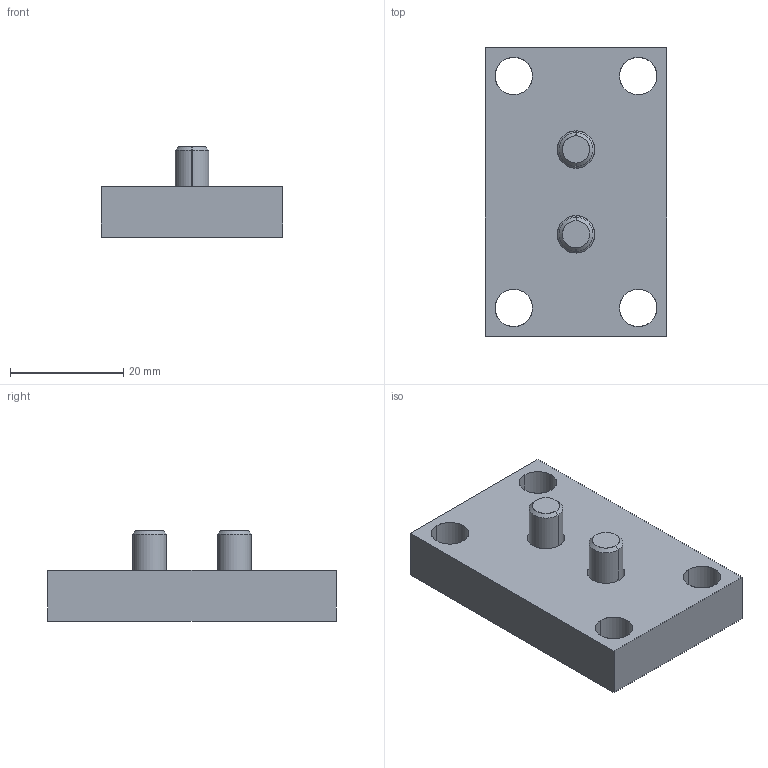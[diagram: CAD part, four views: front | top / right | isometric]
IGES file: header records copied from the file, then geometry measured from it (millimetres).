
Global section: file name: E:\UnigraphicsGraphicData\MISUMI_PRESS-PARTS\IGES\3d_am-32_03184_r00.igs; native system: NX V5.0; preprocessor: UGS NX IGES V5.0; author: MISUMI; date: 20110105.155927; units: millimetre
Bounding box: 32 x 51 x 16 mm (x, y, z)
Surface area: 6501.2 mm2 (no closed solid volume)
Topology: 0 solids, 0 shells, 52 faces, 336 edges, 336 vertices
Faces by surface type: bspline 52
